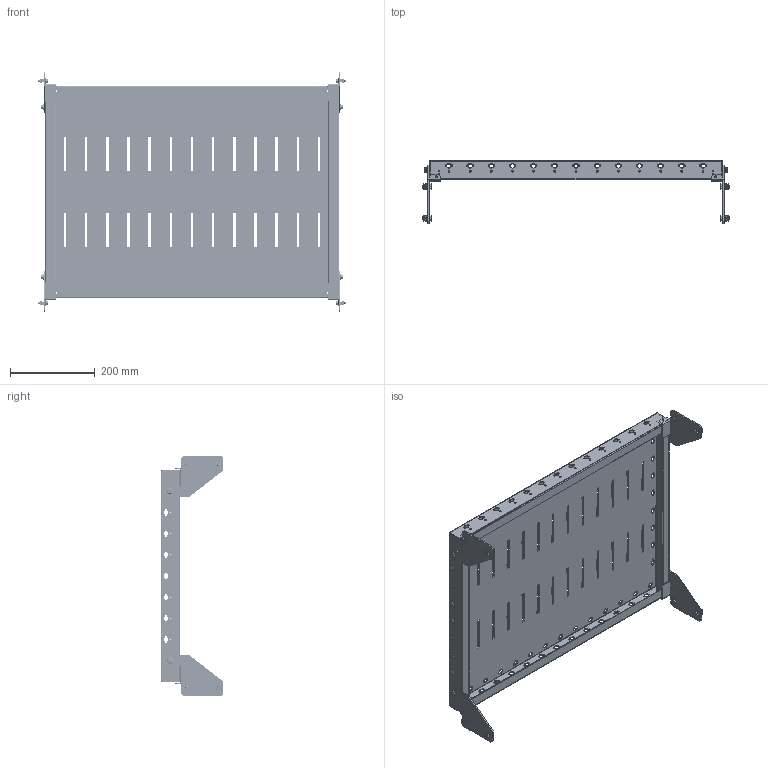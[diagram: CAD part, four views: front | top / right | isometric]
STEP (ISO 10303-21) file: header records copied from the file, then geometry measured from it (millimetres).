
FILE_DESCRIPTION (( 'STEP AP203' ), '1' );
FILE_NAME ('R5RFE86.STEP', '2022-06-29T08:42:06', ( '' ), ( '' ), 'SwSTEP 2.0', 'SolidWorks 2020', '' );
FILE_SCHEMA (( 'CONFIG_CONTROL_DESIGN' ));
Length unit declared in the file: millimetre
Products named in the file (7): RB.1704.00.00.0_-00; M6x16 DIN 6921 cl.8,8 Zinc_thread; M6 A3400002 Zinc_thread; Ì6 D87181 Zinc_In a tightened position (1.5 mm); RB.2364.00.00.0_06; RB.1704.00.00.0_- 01; R5RFE86
Assembly tree (29 placements, depth 2):
  R5RFE86
    RB.2364.00.00.0_06
    RB.1704.00.00.0_- 01  x2
    M6 A3400002 Zinc_thread  x8
    M6x16 DIN 6921 cl.8,8 Zinc_thread  x12
    RB.1704.00.00.0_-00  x2
    Ì6 D87181 Zinc_In a tightened position (1.5 mm)  x4
Bounding box: 726 x 148.6 x 565 mm (x, y, z)
Volume: 1115550.3 mm3; surface area: 1114066.4 mm2
Topology: 29 solids, 29 shells, 5234 faces, 14416 edges, 9188 vertices
Faces by surface type: cylinder 2132, plane 1714, cone 1076, bspline 216, torus 96
Entity records: 81018 total; most frequent: CARTESIAN_POINT 16201, DIRECTION 13639, ORIENTED_EDGE 13388, EDGE_CURVE 6694, AXIS2_PLACEMENT_3D 4891, VERTEX_POINT 4375, LINE 3857, VECTOR 3857
